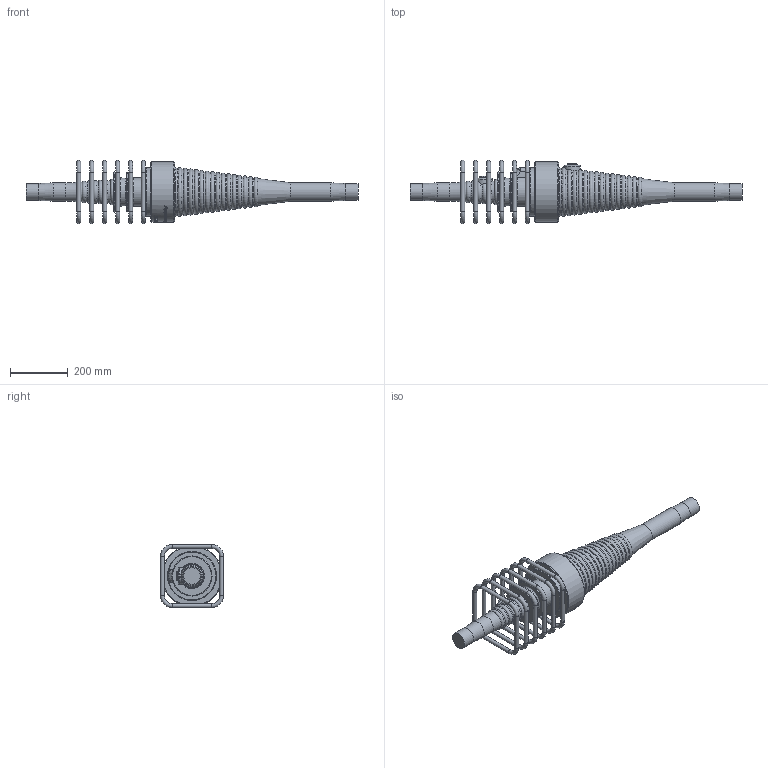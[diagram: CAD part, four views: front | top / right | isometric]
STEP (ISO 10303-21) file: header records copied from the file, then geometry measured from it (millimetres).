
FILE_DESCRIPTION(/* description */ (''),/* implementation_level */ '2;1');
FILE_NAME(/* name */ 'BBR VT CONA CMI BT 706_Coupler K Assembly_CS-43,35_Stirrup.stp',/* time_stamp */ '2024-11-20T15:01:05+01:00',/* author */ ('tk'),/* organization */ (''),/* preprocessor_version */ 'ST-DEVELOPER v20',/* originating_system */ 'Autodesk Inventor 2024',/* authorisation */ '');
FILE_SCHEMA (('AUTOMOTIVE_DESIGN { 1 0 10303 214 3 1 1 }'));
Products named in the file (1): BBR VT CONA CMI BT 706_Coupler K Assembly_CS-43,35_Stirrup
Bounding box: 1153 x 220 x 220 mm (x, y, z)
Volume: 11709205.4 mm3; surface area: 655586.1 mm2
Topology: 7 solids, 7 shells, 1042 faces, 2755 edges, 1788 vertices
Faces by surface type: bspline 410, plane 352, cylinder 119, torus 112, cone 25, sphere 24
Full cylindrical faces by diameter (mm): 14 x24, 34 x2, 57 x2, 59 x2, 64 x2, 133.801 x1, 139.387 x1, 170 x1, 203 x1, 207 x1, 210 x1
Entity records: 43134 total; most frequent: CARTESIAN_POINT 18976, ORIENTED_EDGE 5498, DIRECTION 4058, EDGE_CURVE 2749, VERTEX_POINT 1788, AXIS2_PLACEMENT_3D 1498, EDGE_LOOP 1121, LINE 1062
